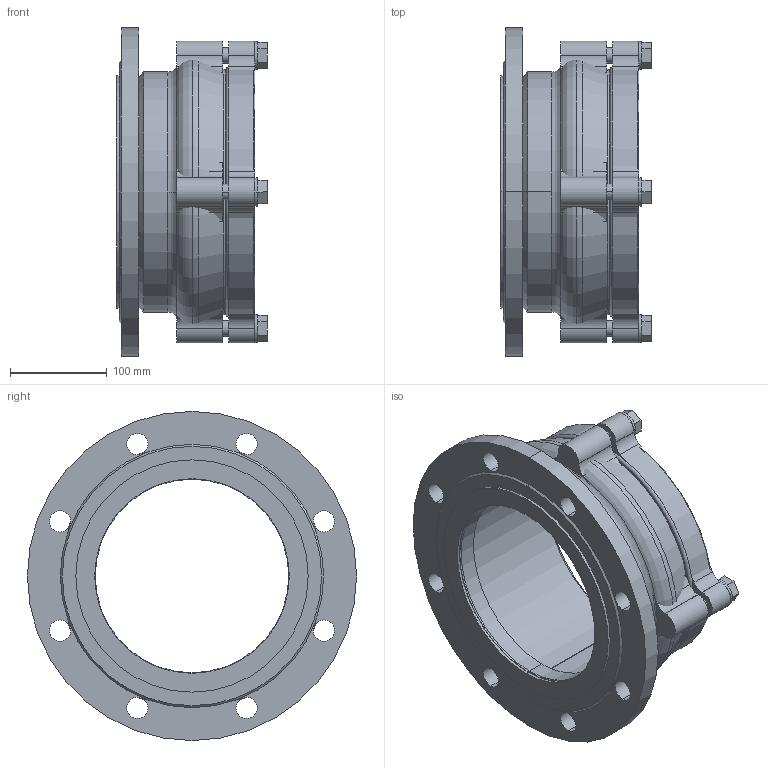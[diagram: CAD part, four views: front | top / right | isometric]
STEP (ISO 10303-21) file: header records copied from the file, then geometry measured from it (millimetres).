
FILE_DESCRIPTION(('STEP AP214'),'1');
FILE_NAME('U:/VDI-Daten/7200-(0400)/7200_PN10_DN200_225.STP','2012-06-15T10:04:54',(' '),(' '),'Spatial InterOp 3D',' ',' ');
FILE_SCHEMA(('automotive_design'));
Length unit declared in the file: millimetre
Products named in the file (26): 3D-Objekt
Bounding box: 156 x 340 x 340 mm (x, y, z)
Volume: 3092748 mm3; surface area: 751429 mm2
Topology: 26 solids, 26 shells, 217 faces, 488 edges, 324 vertices
Faces by surface type: plane 109, cylinder 90, torus 12, cone 6
Entity records: 8526 total; most frequent: DIRECTION 1198, CARTESIAN_POINT 1055, ORIENTED_EDGE 976, EDGE_CURVE 488, AXIS2_PLACEMENT_3D 467, VERTEX_POINT 324, LINE 264, VECTOR 264
